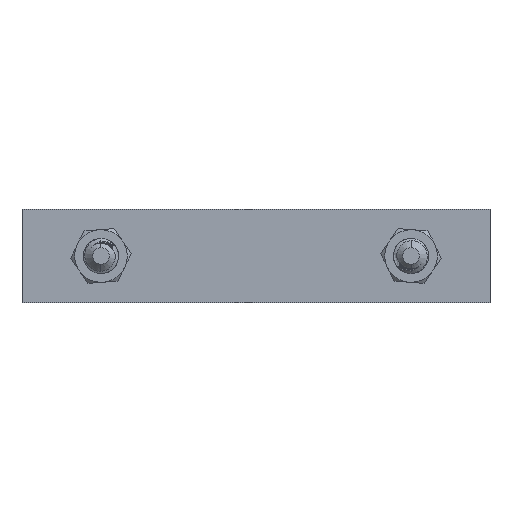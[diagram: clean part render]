
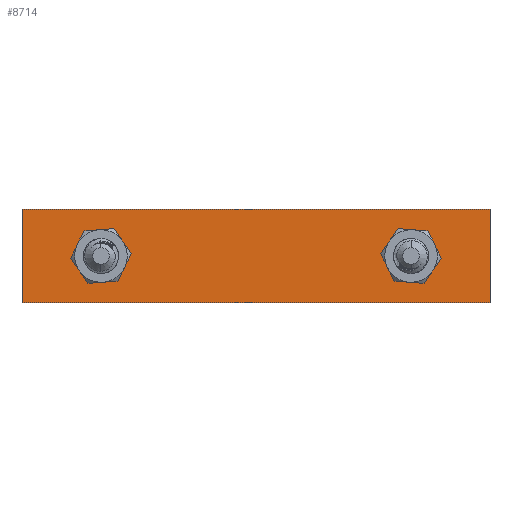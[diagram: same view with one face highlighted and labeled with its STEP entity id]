
A CAD part, front view. The second image highlights one B-rep face of the part: STEP entity #8714.
In plain terms, the highlighted planar face has unit normal (0, -1, 0).
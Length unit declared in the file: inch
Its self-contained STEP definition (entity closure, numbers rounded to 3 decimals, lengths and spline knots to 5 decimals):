
#67 = LINE ( 'NONE', #5547, #2074 ) ;
#89 = LINE ( 'NONE', #17203, #12457 ) ;
#438 = DIRECTION ( 'NONE',  ( 0., 1., 0. ) ) ;
#612 = VERTEX_POINT ( 'NONE', #7777 ) ;
#1053 = ORIENTED_EDGE ( 'NONE', *, *, #10134, .F. ) ;
#1174 = DIRECTION ( 'NONE',  ( -1., 0., 0. ) ) ;
#1230 = EDGE_CURVE ( 'Edge13', #6010, #17138, #67, .T. ) ;
#1330 = CARTESIAN_POINT ( 'NONE',  ( 0., 0.05, -0.49749 ) ) ;
#1407 = DIRECTION ( 'NONE',  ( 0., 0., -1. ) ) ;
#1427 = CARTESIAN_POINT ( 'NONE',  ( 0., 0.05, 0. ) ) ;
#1712 = DIRECTION ( 'NONE',  ( 1., 0., 0. ) ) ;
#2074 = VECTOR ( 'NONE', #1712, 39.37008 ) ;
#2366 = DIRECTION ( 'NONE',  ( 0., 1., 0. ) ) ;
#3083 = DIRECTION ( 'NONE',  ( 0., -1., 0. ) ) ;
#3161 = FACE_BOUND ( 'NONE', #4332, .T. ) ;
#3276 = ORIENTED_EDGE ( 'NONE', *, *, #1230, .T. ) ;
#3357 = ORIENTED_EDGE ( 'NONE', *, *, #7854, .T. ) ;
#3769 = VECTOR ( 'NONE', #4112, 39.37008 ) ;
#3954 = DIRECTION ( 'NONE',  ( 0., 0., 1. ) ) ;
#4030 = AXIS2_PLACEMENT_3D ( 'NONE', #15093, #438, #12472 ) ;
#4049 = DIRECTION ( 'NONE',  ( 0., 0., 1. ) ) ;
#4112 = DIRECTION ( 'NONE',  ( 0., 0., -1. ) ) ;
#4332 = EDGE_LOOP ( 'NONE', ( #11957, #3357 ) ) ;
#4675 = VERTEX_POINT ( 'NONE', #9023 ) ;
#4892 = CARTESIAN_POINT ( 'NONE',  ( 0.84375, 0.05, 0.25 ) ) ;
#5167 = CIRCLE ( 'NONE', #14108, 0.25 ) ;
#5216 = DIRECTION ( 'NONE',  ( 0., 0., -1. ) ) ;
#5275 = CARTESIAN_POINT ( 'NONE',  ( 4.15625, 0.05, 0. ) ) ;
#5337 = LINE ( 'NONE', #5426, #3769 ) ;
#5426 = CARTESIAN_POINT ( 'NONE',  ( 5., 0.05, 0.875 ) ) ;
#5547 = CARTESIAN_POINT ( 'NONE',  ( 5., 0.05, -0.49749 ) ) ;
#5611 = FACE_OUTER_BOUND ( 'NONE', #14045, .T. ) ;
#5625 = ORIENTED_EDGE ( 'NONE', *, *, #10649, .T. ) ;
#6010 = VERTEX_POINT ( 'NONE', #1330 ) ;
#6518 = CARTESIAN_POINT ( 'NONE',  ( 4.15625, 0.05, 0. ) ) ;
#6834 = EDGE_CURVE ( 'Edge7', #4675, #8211, #10438, .T. ) ;
#7126 = AXIS2_PLACEMENT_3D ( 'NONE', #1427, #3083, #12417 ) ;
#7437 = ORIENTED_EDGE ( 'NONE', *, *, #6834, .T. ) ;
#7670 = AXIS2_PLACEMENT_3D ( 'NONE', #6518, #9216, #4049 ) ;
#7777 = CARTESIAN_POINT ( 'NONE',  ( 5., 0.05, 0.49749 ) ) ;
#7854 = EDGE_CURVE ( 'Edge12', #9888, #9998, #16861, .T. ) ;
#8211 = VERTEX_POINT ( 'NONE', #16115 ) ;
#8402 = ORIENTED_EDGE ( 'NONE', *, *, #13300, .T. ) ;
#8699 = ORIENTED_EDGE ( 'NONE', *, *, #10021, .T. ) ;
#8714 = ADVANCED_FACE ( 'Face6', ( #16350, #5611, #3161 ), #13747, .T. ) ;
#9023 = CARTESIAN_POINT ( 'NONE',  ( 4.15625, 0.05, -0.25 ) ) ;
#9128 = DIRECTION ( 'NONE',  ( 0., 1., 0. ) ) ;
#9169 = EDGE_CURVE ( 'Edge12', #9998, #9888, #5167, .T. ) ;
#9216 = DIRECTION ( 'NONE',  ( 0., 1., 0. ) ) ;
#9542 = CARTESIAN_POINT ( 'NONE',  ( 5., 0.05, 0.49749 ) ) ;
#9888 = VERTEX_POINT ( 'NONE', #4892 ) ;
#9998 = VERTEX_POINT ( 'NONE', #12864 ) ;
#10021 = EDGE_CURVE ( 'NONE', #612, #16462, #11634, .T. ) ;
#10134 = EDGE_CURVE ( 'Edge10', #612, #17138, #5337, .T. ) ;
#10300 = CARTESIAN_POINT ( 'NONE',  ( 0., 0.05, 0.49749 ) ) ;
#10438 = CIRCLE ( 'NONE', #7670, 0.25 ) ;
#10649 = EDGE_CURVE ( 'Edge7', #8211, #4675, #16887, .T. ) ;
#10689 = CARTESIAN_POINT ( 'NONE',  ( 5., 0.05, -0.49749 ) ) ;
#11302 = VECTOR ( 'NONE', #1174, 39.37008 ) ;
#11634 = LINE ( 'NONE', #9542, #11302 ) ;
#11793 = CARTESIAN_POINT ( 'NONE',  ( 0.84375, 0.05, 0. ) ) ;
#11957 = ORIENTED_EDGE ( 'NONE', *, *, #9169, .T. ) ;
#12161 = AXIS2_PLACEMENT_3D ( 'NONE', #5275, #9128, #3954 ) ;
#12417 = DIRECTION ( 'NONE',  ( 0., 0., -1. ) ) ;
#12457 = VECTOR ( 'NONE', #5216, 39.37008 ) ;
#12472 = DIRECTION ( 'NONE',  ( 0., 0., -1. ) ) ;
#12864 = CARTESIAN_POINT ( 'NONE',  ( 0.84375, 0.05, -0.25 ) ) ;
#13300 = EDGE_CURVE ( 'Edge6', #16462, #6010, #89, .T. ) ;
#13747 = PLANE ( 'NONE',  #7126 ) ;
#14045 = EDGE_LOOP ( 'NONE', ( #8699, #8402, #3276, #1053 ) ) ;
#14108 = AXIS2_PLACEMENT_3D ( 'NONE', #11793, #2366, #1407 ) ;
#15093 = CARTESIAN_POINT ( 'NONE',  ( 0.84375, 0.05, 0. ) ) ;
#15588 = EDGE_LOOP ( 'NONE', ( #7437, #5625 ) ) ;
#16115 = CARTESIAN_POINT ( 'NONE',  ( 4.15625, 0.05, 0.25 ) ) ;
#16350 = FACE_BOUND ( 'NONE', #15588, .T. ) ;
#16462 = VERTEX_POINT ( 'NONE', #10300 ) ;
#16861 = CIRCLE ( 'NONE', #4030, 0.25 ) ;
#16887 = CIRCLE ( 'NONE', #12161, 0.25 ) ;
#17138 = VERTEX_POINT ( 'NONE', #10689 ) ;
#17203 = CARTESIAN_POINT ( 'NONE',  ( 0., 0.05, 0. ) ) ;
